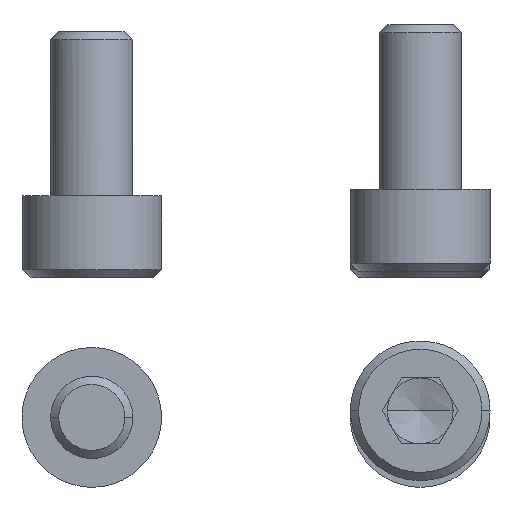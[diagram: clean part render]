
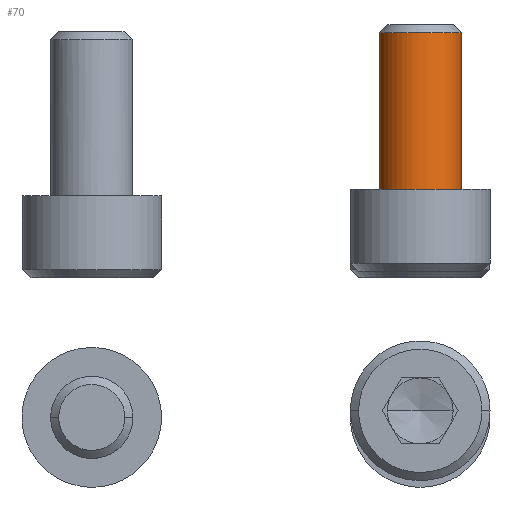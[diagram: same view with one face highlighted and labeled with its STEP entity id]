
A CAD part, front view. The second image highlights one B-rep face of the part: STEP entity #70.
In plain terms, the highlighted free-form (B-spline) face has degree [1, 2] with [2, 9] control points.
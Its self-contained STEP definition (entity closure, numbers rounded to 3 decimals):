
#70=ADVANCED_FACE('',(#95),#776,.T.);
#95=FACE_OUTER_BOUND('',#120,.T.);
#120=EDGE_LOOP('',(#211,#212,#213,#214));
#211=ORIENTED_EDGE('',*,*,#680,.F.);
#212=ORIENTED_EDGE('',*,*,#639,.F.);
#213=ORIENTED_EDGE('',*,*,#681,.T.);
#214=ORIENTED_EDGE('',*,*,#641,.F.);
#244=PCURVE('',#771,#352);
#246=PCURVE('',#771,#354);
#317=PCURVE('',#775,#425);
#319=PCURVE('',#776,#427);
#320=PCURVE('',#776,#428);
#321=PCURVE('',#776,#429);
#322=PCURVE('',#776,#430);
#326=PCURVE('',#767,#434);
#352=DEFINITIONAL_REPRESENTATION('',(#465),#1517);
#354=DEFINITIONAL_REPRESENTATION('',(#468),#1517);
#425=DEFINITIONAL_REPRESENTATION('',(#557),#1517);
#427=DEFINITIONAL_REPRESENTATION('',(#559),#1517);
#428=DEFINITIONAL_REPRESENTATION('',(#560),#1517);
#429=DEFINITIONAL_REPRESENTATION('',(#561),#1517);
#430=DEFINITIONAL_REPRESENTATION('',(#562),#1517);
#434=DEFINITIONAL_REPRESENTATION('',(#716),#1517);
#464=B_SPLINE_CURVE_WITH_KNOTS('',1,(#1156,#1157),.UNSPECIFIED.,.F.,.F.,
(2,2),(0.,9.51),.UNSPECIFIED.);
#465=B_SPLINE_CURVE_WITH_KNOTS('',1,(#1158,#1159),.UNSPECIFIED.,.F.,.F.,
(2,2),(0.,9.51),.UNSPECIFIED.);
#467=B_SPLINE_CURVE_WITH_KNOTS('',1,(#1167,#1168),.UNSPECIFIED.,.F.,.F.,
(2,2),(0.,9.51),.UNSPECIFIED.);
#468=B_SPLINE_CURVE_WITH_KNOTS('',1,(#1169,#1170),.UNSPECIFIED.,.F.,.F.,
(2,2),(0.,9.51),.UNSPECIFIED.);
#557=B_SPLINE_CURVE_WITH_KNOTS('',1,(#1420,#1421),.UNSPECIFIED.,.F.,.F.,
(2,2),(0.,7.854),.UNSPECIFIED.);
#559=B_SPLINE_CURVE_WITH_KNOTS('',1,(#1424,#1425),.UNSPECIFIED.,.F.,.F.,
(2,2),(0.,7.854),.UNSPECIFIED.);
#560=B_SPLINE_CURVE_WITH_KNOTS('',1,(#1426,#1427),.UNSPECIFIED.,.F.,.F.,
(2,2),(0.,9.51),.UNSPECIFIED.);
#561=B_SPLINE_CURVE_WITH_KNOTS('',1,(#1433,#1434),.UNSPECIFIED.,.F.,.F.,
(2,2),(0.,7.854),.UNSPECIFIED.);
#562=B_SPLINE_CURVE_WITH_KNOTS('',1,(#1435,#1436),.UNSPECIFIED.,.F.,.F.,
(2,2),(0.,9.51),.UNSPECIFIED.);
#585=SURFACE_CURVE('',#464,(#244,#320),.PCURVE_S1.);
#587=SURFACE_CURVE('',#467,(#246,#322),.PCURVE_S1.);
#626=SURFACE_CURVE('',#710,(#317,#319),.PCURVE_S1.);
#627=SURFACE_CURVE('',#711,(#321,#326),.PCURVE_S1.);
#639=EDGE_CURVE('',#730,#729,#585,.T.);
#641=EDGE_CURVE('',#728,#727,#587,.T.);
#680=EDGE_CURVE('',#729,#728,#626,.T.);
#681=EDGE_CURVE('',#730,#727,#627,.T.);
#710=(
BOUNDED_CURVE()
B_SPLINE_CURVE(2,(#1415,#1416,#1417,#1418,#1419),.UNSPECIFIED.,.F.,.F.)
B_SPLINE_CURVE_WITH_KNOTS((3,2,3),(0.,3.927,7.854),
 .UNSPECIFIED.)
CURVE()
GEOMETRIC_REPRESENTATION_ITEM()
RATIONAL_B_SPLINE_CURVE((1.,0.707,1.,0.707,1.))
REPRESENTATION_ITEM('')
);
#711=(
BOUNDED_CURVE()
B_SPLINE_CURVE(2,(#1428,#1429,#1430,#1431,#1432),.UNSPECIFIED.,.F.,.F.)
B_SPLINE_CURVE_WITH_KNOTS((3,2,3),(0.,3.927,7.854),
 .UNSPECIFIED.)
CURVE()
GEOMETRIC_REPRESENTATION_ITEM()
RATIONAL_B_SPLINE_CURVE((1.,0.707,1.,0.707,1.))
REPRESENTATION_ITEM('')
);
#716=(
BOUNDED_CURVE()
B_SPLINE_CURVE(2,(#1457,#1458,#1459,#1460,#1461),.UNSPECIFIED.,.F.,.F.)
B_SPLINE_CURVE_WITH_KNOTS((3,2,3),(0.,3.927,7.854),
 .UNSPECIFIED.)
CURVE()
GEOMETRIC_REPRESENTATION_ITEM()
RATIONAL_B_SPLINE_CURVE((1.,0.707,1.,0.707,1.))
REPRESENTATION_ITEM('')
);
#727=VERTEX_POINT('',#1083);
#728=VERTEX_POINT('',#1084);
#729=VERTEX_POINT('',#1085);
#730=VERTEX_POINT('',#1086);
#767=PLANE('',#838);
#771=(
BOUNDED_SURFACE()
B_SPLINE_SURFACE(1,2,((#918,#919,#920,#921,#922,#923,#924,#925,#926),(#927,
#928,#929,#930,#931,#932,#933,#934,#935)),.UNSPECIFIED.,.F.,.F.,.F.)
B_SPLINE_SURFACE_WITH_KNOTS((2,2),(3,2,2,2,3),(0.,11.414),(0.,1.571,
3.142,4.712,6.283),.UNSPECIFIED.)
GEOMETRIC_REPRESENTATION_ITEM()
RATIONAL_B_SPLINE_SURFACE(((1.,0.707,1.,0.707,1.,
0.707,1.,0.707,1.),(1.,0.707,1.,0.707,
1.,0.707,1.,0.707,1.)))
REPRESENTATION_ITEM('')
SURFACE()
);
#775=(
BOUNDED_SURFACE()
B_SPLINE_SURFACE(1,2,((#1003,#1004,#1005,#1006,#1007,#1008,#1009,#1010,#1011),
(#1012,#1013,#1014,#1015,#1016,#1017,#1018,#1019,#1020)),.UNSPECIFIED.,.F.,
 .F.,.F.)
B_SPLINE_SURFACE_WITH_KNOTS((2,2),(3,2,2,2,3),(0.,3.891),(0.,
1.571,3.142,4.712,6.283),
 .UNSPECIFIED.)
GEOMETRIC_REPRESENTATION_ITEM()
RATIONAL_B_SPLINE_SURFACE(((1.,0.707,1.,0.707,1.,
0.707,1.,0.707,1.),(1.,0.707,1.,0.707,
1.,0.707,1.,0.707,1.)))
REPRESENTATION_ITEM('')
SURFACE()
);
#776=(
BOUNDED_SURFACE()
B_SPLINE_SURFACE(1,2,((#1021,#1022,#1023,#1024,#1025,#1026,#1027,#1028,#1029),
(#1030,#1031,#1032,#1033,#1034,#1035,#1036,#1037,#1038)),.UNSPECIFIED.,.F.,
 .F.,.F.)
B_SPLINE_SURFACE_WITH_KNOTS((2,2),(3,2,2,2,3),(0.,11.414),(0.,1.571,
3.142,4.712,6.283),.UNSPECIFIED.)
GEOMETRIC_REPRESENTATION_ITEM()
RATIONAL_B_SPLINE_SURFACE(((1.,0.707,1.,0.707,1.,
0.707,1.,0.707,1.),(1.,0.707,1.,0.707,
1.,0.707,1.,0.707,1.)))
REPRESENTATION_ITEM('')
SURFACE()
);
#838=AXIS2_PLACEMENT_3D('',#1039,#864,$);
#864=DIRECTION('',(1.,0.,0.));
#918=CARTESIAN_POINT('',(-0.952,2.5,0.));
#919=CARTESIAN_POINT('',(-0.952,2.5,-2.5));
#920=CARTESIAN_POINT('',(-0.952,0.,-2.5));
#921=CARTESIAN_POINT('',(-0.952,-2.5,-2.5));
#922=CARTESIAN_POINT('',(-0.952,-2.5,0.));
#923=CARTESIAN_POINT('',(-0.952,-2.5,2.5));
#924=CARTESIAN_POINT('',(-0.952,0.,2.5));
#925=CARTESIAN_POINT('',(-0.952,2.5,2.5));
#926=CARTESIAN_POINT('',(-0.952,2.5,0.));
#927=CARTESIAN_POINT('',(10.462,2.5,0.));
#928=CARTESIAN_POINT('',(10.462,2.5,-2.5));
#929=CARTESIAN_POINT('',(10.462,0.,-2.5));
#930=CARTESIAN_POINT('',(10.462,-2.5,-2.5));
#931=CARTESIAN_POINT('',(10.462,-2.5,0.));
#932=CARTESIAN_POINT('',(10.462,-2.5,2.5));
#933=CARTESIAN_POINT('',(10.462,0.,2.5));
#934=CARTESIAN_POINT('',(10.462,2.5,2.5));
#935=CARTESIAN_POINT('',(10.462,2.5,0.));
#1003=CARTESIAN_POINT('',(12.01,0.,0.));
#1004=CARTESIAN_POINT('',(12.01,0.,0.));
#1005=CARTESIAN_POINT('',(12.01,0.,0.));
#1006=CARTESIAN_POINT('',(12.01,0.,0.));
#1007=CARTESIAN_POINT('',(12.01,0.,0.));
#1008=CARTESIAN_POINT('',(12.01,0.,0.));
#1009=CARTESIAN_POINT('',(12.01,0.,0.));
#1010=CARTESIAN_POINT('',(12.01,0.,0.));
#1011=CARTESIAN_POINT('',(12.01,0.,0.));
#1012=CARTESIAN_POINT('',(9.258,-2.751,0.));
#1013=CARTESIAN_POINT('',(9.258,-2.751,-2.751));
#1014=CARTESIAN_POINT('',(9.258,0.,-2.751));
#1015=CARTESIAN_POINT('',(9.258,2.751,-2.751));
#1016=CARTESIAN_POINT('',(9.258,2.751,0.));
#1017=CARTESIAN_POINT('',(9.258,2.751,2.751));
#1018=CARTESIAN_POINT('',(9.258,0.,2.751));
#1019=CARTESIAN_POINT('',(9.258,-2.751,2.751));
#1020=CARTESIAN_POINT('',(9.258,-2.751,0.));
#1021=CARTESIAN_POINT('',(-0.952,-2.5,0.));
#1022=CARTESIAN_POINT('',(-0.952,-2.5,2.5));
#1023=CARTESIAN_POINT('',(-0.952,0.,2.5));
#1024=CARTESIAN_POINT('',(-0.952,2.5,2.5));
#1025=CARTESIAN_POINT('',(-0.952,2.5,0.));
#1026=CARTESIAN_POINT('',(-0.952,2.5,-2.5));
#1027=CARTESIAN_POINT('',(-0.952,0.,-2.5));
#1028=CARTESIAN_POINT('',(-0.952,-2.5,-2.5));
#1029=CARTESIAN_POINT('',(-0.952,-2.5,0.));
#1030=CARTESIAN_POINT('',(10.462,-2.5,0.));
#1031=CARTESIAN_POINT('',(10.462,-2.5,2.5));
#1032=CARTESIAN_POINT('',(10.462,0.,2.5));
#1033=CARTESIAN_POINT('',(10.462,2.5,2.5));
#1034=CARTESIAN_POINT('',(10.462,2.5,0.));
#1035=CARTESIAN_POINT('',(10.462,2.5,-2.5));
#1036=CARTESIAN_POINT('',(10.462,0.,-2.5));
#1037=CARTESIAN_POINT('',(10.462,-2.5,-2.5));
#1038=CARTESIAN_POINT('',(10.462,-2.5,0.));
#1039=CARTESIAN_POINT('',(0.,5.101,5.101));
#1083=CARTESIAN_POINT('',(0.,0.,2.5));
#1084=CARTESIAN_POINT('',(9.51,0.,2.5));
#1085=CARTESIAN_POINT('',(9.51,0.,-2.5));
#1086=CARTESIAN_POINT('',(0.,0.,-2.5));
#1156=CARTESIAN_POINT('',(0.,0.,-2.5));
#1157=CARTESIAN_POINT('',(9.51,0.,-2.5));
#1158=CARTESIAN_POINT('',(0.952,1.571));
#1159=CARTESIAN_POINT('',(10.462,1.571));
#1167=CARTESIAN_POINT('',(9.51,0.,2.5));
#1168=CARTESIAN_POINT('',(0.,0.,2.5));
#1169=CARTESIAN_POINT('',(10.462,4.712));
#1170=CARTESIAN_POINT('',(0.952,4.712));
#1415=CARTESIAN_POINT('',(9.51,0.,-2.5));
#1416=CARTESIAN_POINT('',(9.51,2.5,-2.5));
#1417=CARTESIAN_POINT('',(9.51,2.5,0.));
#1418=CARTESIAN_POINT('',(9.51,2.5,2.5));
#1419=CARTESIAN_POINT('',(9.51,0.,2.5));
#1420=CARTESIAN_POINT('',(3.536,1.571));
#1421=CARTESIAN_POINT('',(3.536,4.712));
#1424=CARTESIAN_POINT('',(10.462,4.712));
#1425=CARTESIAN_POINT('',(10.462,1.571));
#1426=CARTESIAN_POINT('',(0.952,4.712));
#1427=CARTESIAN_POINT('',(10.462,4.712));
#1428=CARTESIAN_POINT('',(0.,0.,-2.5));
#1429=CARTESIAN_POINT('',(0.,2.5,-2.5));
#1430=CARTESIAN_POINT('',(0.,2.5,0.));
#1431=CARTESIAN_POINT('',(0.,2.5,2.5));
#1432=CARTESIAN_POINT('',(0.,0.,2.5));
#1433=CARTESIAN_POINT('',(0.952,4.712));
#1434=CARTESIAN_POINT('',(0.952,1.571));
#1435=CARTESIAN_POINT('',(10.462,1.571));
#1436=CARTESIAN_POINT('',(0.952,1.571));
#1457=CARTESIAN_POINT('',(0.,5.875));
#1458=CARTESIAN_POINT('',(-2.5,5.875));
#1459=CARTESIAN_POINT('',(-2.5,3.375));
#1460=CARTESIAN_POINT('',(-2.5,0.875));
#1461=CARTESIAN_POINT('',(0.,0.875));
#1517=(
GEOMETRIC_REPRESENTATION_CONTEXT(2)
PARAMETRIC_REPRESENTATION_CONTEXT()
REPRESENTATION_CONTEXT('pspace','')
);
